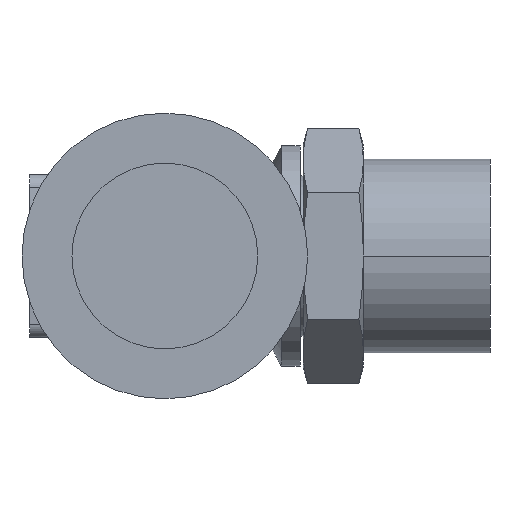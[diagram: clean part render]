
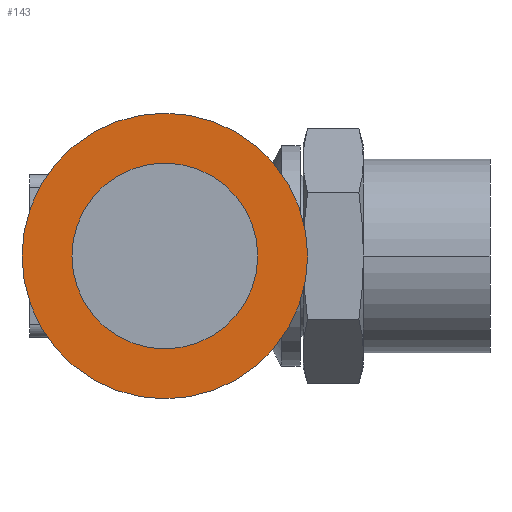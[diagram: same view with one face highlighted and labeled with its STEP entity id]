
A CAD part, left-side view. The second image highlights one B-rep face of the part: STEP entity #143.
In plain terms, the highlighted planar face has unit normal (-1, 0, 0).
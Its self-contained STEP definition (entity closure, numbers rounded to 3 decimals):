
#143 = ADVANCED_FACE( '', ( #314, #315 ), #316, .T. );
#314 = FACE_BOUND( '', #515, .T. );
#315 = FACE_OUTER_BOUND( '', #516, .T. );
#316 = PLANE( '', #517 );
#515 = EDGE_LOOP( '', ( #1103, #1104 ) );
#516 = EDGE_LOOP( '', ( #1105, #1106 ) );
#517 = AXIS2_PLACEMENT_3D( '', #1107, #1108, #1109 );
#1103 = ORIENTED_EDGE( '', *, *, #1386, .T. );
#1104 = ORIENTED_EDGE( '', *, *, #1382, .T. );
#1105 = ORIENTED_EDGE( '', *, *, #1324, .T. );
#1106 = ORIENTED_EDGE( '', *, *, #1475, .T. );
#1107 = CARTESIAN_POINT( '', ( -26.3, 28.35, 0. ) );
#1108 = DIRECTION( '', ( -1., 0., 0. ) );
#1109 = DIRECTION( '', ( 0., 1., 0. ) );
#1324 = EDGE_CURVE( '', #1562, #1566, #1568, .T. );
#1382 = EDGE_CURVE( '', #1678, #1675, #1679, .T. );
#1386 = EDGE_CURVE( '', #1675, #1678, #1684, .T. );
#1475 = EDGE_CURVE( '', #1566, #1562, #1813, .T. );
#1562 = VERTEX_POINT( '', #2037 );
#1566 = VERTEX_POINT( '', #2042 );
#1568 = CIRCLE( '', #2045, 12.3 );
#1675 = VERTEX_POINT( '', #2273 );
#1678 = VERTEX_POINT( '', #2277 );
#1679 = CIRCLE( '', #2278, 8. );
#1684 = CIRCLE( '', #2284, 8. );
#1813 = CIRCLE( '', #2718, 12.3 );
#2037 = CARTESIAN_POINT( '', ( -26.3, 34.5, 0. ) );
#2042 = CARTESIAN_POINT( '', ( -26.3, 9.9, 0. ) );
#2045 = AXIS2_PLACEMENT_3D( '', #3044, #3045, #3046 );
#2273 = CARTESIAN_POINT( '', ( -26.3, 30.2, 0. ) );
#2277 = CARTESIAN_POINT( '', ( -26.3, 14.2, 0. ) );
#2278 = AXIS2_PLACEMENT_3D( '', #3150, #3151, #3152 );
#2284 = AXIS2_PLACEMENT_3D( '', #3160, #3161, #3162 );
#2718 = AXIS2_PLACEMENT_3D( '', #3310, #3311, #3312 );
#3044 = CARTESIAN_POINT( '', ( -26.3, 22.2, 0. ) );
#3045 = DIRECTION( '', ( -1., 0., 0. ) );
#3046 = DIRECTION( '', ( 0., 1., 0. ) );
#3150 = CARTESIAN_POINT( '', ( -26.3, 22.2, 0. ) );
#3151 = DIRECTION( '', ( 1., 0., 0. ) );
#3152 = DIRECTION( '', ( 0., 1., 0. ) );
#3160 = CARTESIAN_POINT( '', ( -26.3, 22.2, 0. ) );
#3161 = DIRECTION( '', ( 1., 0., 0. ) );
#3162 = DIRECTION( '', ( 0., 1., 0. ) );
#3310 = CARTESIAN_POINT( '', ( -26.3, 22.2, 0. ) );
#3311 = DIRECTION( '', ( -1., 0., 0. ) );
#3312 = DIRECTION( '', ( 0., 1., 0. ) );
